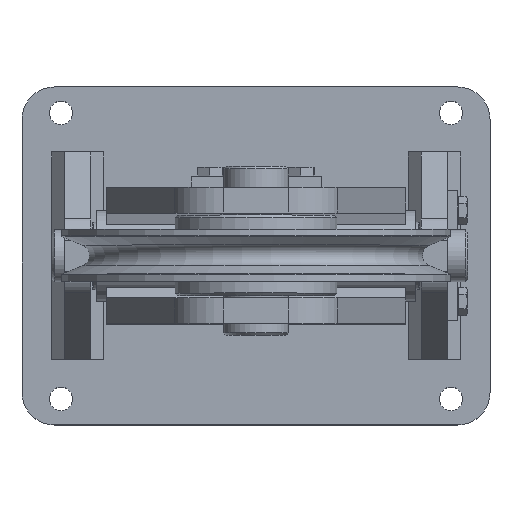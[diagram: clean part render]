
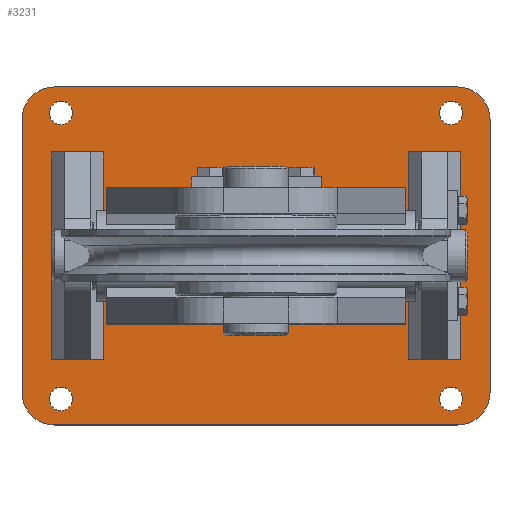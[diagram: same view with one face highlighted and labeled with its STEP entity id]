
A CAD part, top view. The second image highlights one B-rep face of the part: STEP entity #3231.
In plain terms, the highlighted planar face has unit normal (0, 0, 1).
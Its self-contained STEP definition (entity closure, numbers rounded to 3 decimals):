
#154=FACE_BOUND('',#721,.T.);
#155=FACE_BOUND('',#722,.T.);
#156=FACE_BOUND('',#723,.T.);
#157=FACE_BOUND('',#724,.T.);
#199=CIRCLE('',#3757,9.);
#200=CIRCLE('',#3758,9.);
#202=CIRCLE('',#3761,9.);
#203=CIRCLE('',#3762,9.);
#205=CIRCLE('',#3765,9.);
#206=CIRCLE('',#3766,9.);
#208=CIRCLE('',#3769,9.);
#209=CIRCLE('',#3770,9.);
#211=CIRCLE('',#3773,25.);
#213=CIRCLE('',#3777,25.);
#214=CIRCLE('',#3778,25.);
#215=CIRCLE('',#3779,25.);
#528=FACE_OUTER_BOUND('',#720,.T.);
#720=EDGE_LOOP('',(#2288,#2289,#2290,#2291,#2292,#2293,#2294,#2295));
#721=EDGE_LOOP('',(#2296,#2297));
#722=EDGE_LOOP('',(#2298,#2299));
#723=EDGE_LOOP('',(#2300,#2301));
#724=EDGE_LOOP('',(#2302,#2303));
#973=LINE('',#5374,#1222);
#976=LINE('',#5380,#1225);
#977=LINE('',#5384,#1226);
#978=LINE('',#5388,#1227);
#1222=VECTOR('',#4284,10.);
#1225=VECTOR('',#4289,10.);
#1226=VECTOR('',#4292,10.);
#1227=VECTOR('',#4295,10.);
#1453=VERTEX_POINT('',#5332);
#1454=VERTEX_POINT('',#5333);
#1456=VERTEX_POINT('',#5340);
#1457=VERTEX_POINT('',#5341);
#1459=VERTEX_POINT('',#5348);
#1460=VERTEX_POINT('',#5349);
#1462=VERTEX_POINT('',#5356);
#1463=VERTEX_POINT('',#5357);
#1465=VERTEX_POINT('',#5364);
#1466=VERTEX_POINT('',#5365);
#1469=VERTEX_POINT('',#5373);
#1471=VERTEX_POINT('',#5379);
#1472=VERTEX_POINT('',#5381);
#1473=VERTEX_POINT('',#5383);
#1474=VERTEX_POINT('',#5385);
#1475=VERTEX_POINT('',#5387);
#1772=EDGE_CURVE('',#1453,#1454,#199,.T.);
#1773=EDGE_CURVE('',#1454,#1453,#200,.T.);
#1776=EDGE_CURVE('',#1456,#1457,#202,.T.);
#1777=EDGE_CURVE('',#1457,#1456,#203,.T.);
#1780=EDGE_CURVE('',#1459,#1460,#205,.T.);
#1781=EDGE_CURVE('',#1460,#1459,#206,.T.);
#1784=EDGE_CURVE('',#1462,#1463,#208,.T.);
#1785=EDGE_CURVE('',#1463,#1462,#209,.T.);
#1788=EDGE_CURVE('',#1465,#1466,#211,.T.);
#1792=EDGE_CURVE('',#1469,#1466,#973,.T.);
#1795=EDGE_CURVE('',#1465,#1471,#976,.T.);
#1796=EDGE_CURVE('',#1472,#1471,#213,.T.);
#1797=EDGE_CURVE('',#1472,#1473,#977,.T.);
#1798=EDGE_CURVE('',#1474,#1473,#214,.T.);
#1799=EDGE_CURVE('',#1474,#1475,#978,.T.);
#1800=EDGE_CURVE('',#1469,#1475,#215,.T.);
#2288=ORIENTED_EDGE('',*,*,#1788,.F.);
#2289=ORIENTED_EDGE('',*,*,#1795,.T.);
#2290=ORIENTED_EDGE('',*,*,#1796,.F.);
#2291=ORIENTED_EDGE('',*,*,#1797,.T.);
#2292=ORIENTED_EDGE('',*,*,#1798,.F.);
#2293=ORIENTED_EDGE('',*,*,#1799,.T.);
#2294=ORIENTED_EDGE('',*,*,#1800,.F.);
#2295=ORIENTED_EDGE('',*,*,#1792,.T.);
#2296=ORIENTED_EDGE('',*,*,#1772,.T.);
#2297=ORIENTED_EDGE('',*,*,#1773,.T.);
#2298=ORIENTED_EDGE('',*,*,#1776,.T.);
#2299=ORIENTED_EDGE('',*,*,#1777,.T.);
#2300=ORIENTED_EDGE('',*,*,#1780,.T.);
#2301=ORIENTED_EDGE('',*,*,#1781,.T.);
#2302=ORIENTED_EDGE('',*,*,#1784,.T.);
#2303=ORIENTED_EDGE('',*,*,#1785,.T.);
#3113=PLANE('',#3776);
#3231=ADVANCED_FACE('',(#528,#154,#155,#156,#157),#3113,.T.);
#3757=AXIS2_PLACEMENT_3D('',#5334,#4240,#4241);
#3758=AXIS2_PLACEMENT_3D('',#5335,#4242,#4243);
#3761=AXIS2_PLACEMENT_3D('',#5342,#4249,#4250);
#3762=AXIS2_PLACEMENT_3D('',#5343,#4251,#4252);
#3765=AXIS2_PLACEMENT_3D('',#5350,#4258,#4259);
#3766=AXIS2_PLACEMENT_3D('',#5351,#4260,#4261);
#3769=AXIS2_PLACEMENT_3D('',#5358,#4267,#4268);
#3770=AXIS2_PLACEMENT_3D('',#5359,#4269,#4270);
#3773=AXIS2_PLACEMENT_3D('',#5366,#4276,#4277);
#3776=AXIS2_PLACEMENT_3D('',#5378,#4287,#4288);
#3777=AXIS2_PLACEMENT_3D('',#5382,#4290,#4291);
#3778=AXIS2_PLACEMENT_3D('',#5386,#4293,#4294);
#3779=AXIS2_PLACEMENT_3D('',#5389,#4296,#4297);
#4240=DIRECTION('center_axis',(0.,0.,-1.));
#4241=DIRECTION('ref_axis',(1.,0.,0.));
#4242=DIRECTION('center_axis',(0.,0.,-1.));
#4243=DIRECTION('ref_axis',(1.,0.,0.));
#4249=DIRECTION('center_axis',(0.,0.,-1.));
#4250=DIRECTION('ref_axis',(1.,0.,0.));
#4251=DIRECTION('center_axis',(0.,0.,-1.));
#4252=DIRECTION('ref_axis',(1.,0.,0.));
#4258=DIRECTION('center_axis',(0.,0.,-1.));
#4259=DIRECTION('ref_axis',(1.,0.,0.));
#4260=DIRECTION('center_axis',(0.,0.,-1.));
#4261=DIRECTION('ref_axis',(1.,0.,0.));
#4267=DIRECTION('center_axis',(0.,0.,-1.));
#4268=DIRECTION('ref_axis',(1.,0.,0.));
#4269=DIRECTION('center_axis',(0.,0.,-1.));
#4270=DIRECTION('ref_axis',(1.,0.,0.));
#4276=DIRECTION('center_axis',(0.,0.,-1.));
#4277=DIRECTION('ref_axis',(0.707,-0.707,0.));
#4284=DIRECTION('',(1.,0.,0.));
#4287=DIRECTION('center_axis',(0.,0.,1.));
#4288=DIRECTION('ref_axis',(1.,0.,0.));
#4289=DIRECTION('',(0.,1.,0.));
#4290=DIRECTION('center_axis',(0.,0.,-1.));
#4291=DIRECTION('ref_axis',(0.707,0.707,0.));
#4292=DIRECTION('',(-1.,0.,0.));
#4293=DIRECTION('center_axis',(0.,0.,-1.));
#4294=DIRECTION('ref_axis',(-0.707,0.707,0.));
#4295=DIRECTION('',(0.,-1.,0.));
#4296=DIRECTION('center_axis',(0.,0.,-1.));
#4297=DIRECTION('ref_axis',(-0.707,-0.707,0.));
#5332=CARTESIAN_POINT('',(159.,-110.,20.));
#5333=CARTESIAN_POINT('',(141.,-110.,20.));
#5334=CARTESIAN_POINT('Origin',(150.,-110.,20.));
#5335=CARTESIAN_POINT('Origin',(150.,-110.,20.));
#5340=CARTESIAN_POINT('',(-141.,110.,20.));
#5341=CARTESIAN_POINT('',(-159.,110.,20.));
#5342=CARTESIAN_POINT('Origin',(-150.,110.,20.));
#5343=CARTESIAN_POINT('Origin',(-150.,110.,20.));
#5348=CARTESIAN_POINT('',(159.,110.,20.));
#5349=CARTESIAN_POINT('',(141.,110.,20.));
#5350=CARTESIAN_POINT('Origin',(150.,110.,20.));
#5351=CARTESIAN_POINT('Origin',(150.,110.,20.));
#5356=CARTESIAN_POINT('',(-141.,-110.,20.));
#5357=CARTESIAN_POINT('',(-159.,-110.,20.));
#5358=CARTESIAN_POINT('Origin',(-150.,-110.,20.));
#5359=CARTESIAN_POINT('Origin',(-150.,-110.,20.));
#5364=CARTESIAN_POINT('',(180.,-105.,20.));
#5365=CARTESIAN_POINT('',(155.,-130.,20.));
#5366=CARTESIAN_POINT('Origin',(155.,-105.,20.));
#5373=CARTESIAN_POINT('',(-155.,-130.,20.));
#5374=CARTESIAN_POINT('',(180.,-130.,20.));
#5378=CARTESIAN_POINT('Origin',(0.,0.,20.));
#5379=CARTESIAN_POINT('',(180.,105.,20.));
#5380=CARTESIAN_POINT('',(180.,130.,20.));
#5381=CARTESIAN_POINT('',(155.,130.,20.));
#5382=CARTESIAN_POINT('Origin',(155.,105.,20.));
#5383=CARTESIAN_POINT('',(-155.,130.,20.));
#5384=CARTESIAN_POINT('',(-180.,130.,20.));
#5385=CARTESIAN_POINT('',(-180.,105.,20.));
#5386=CARTESIAN_POINT('Origin',(-155.,105.,20.));
#5387=CARTESIAN_POINT('',(-180.,-105.,20.));
#5388=CARTESIAN_POINT('',(-180.,-130.,20.));
#5389=CARTESIAN_POINT('Origin',(-155.,-105.,20.));
